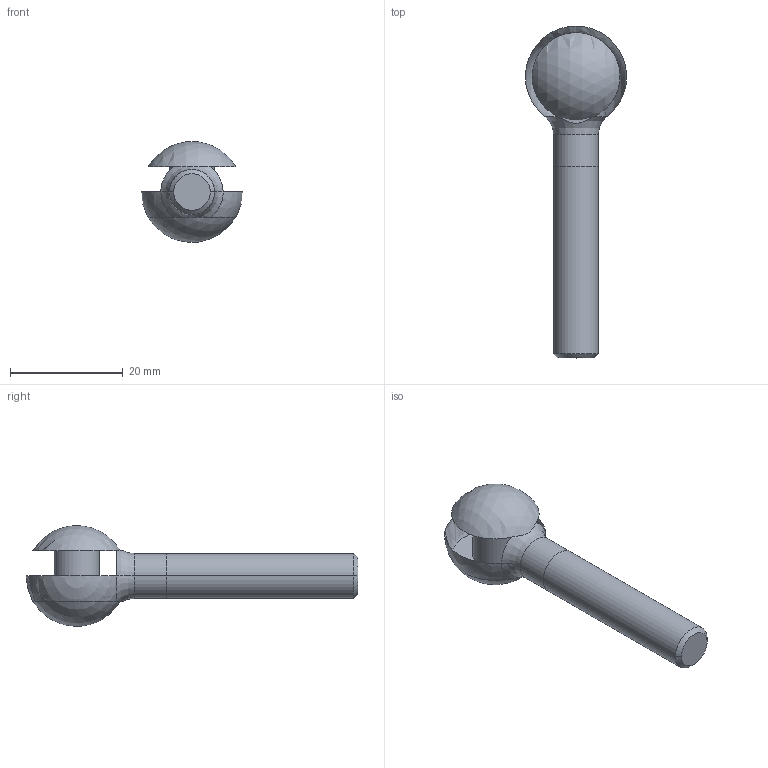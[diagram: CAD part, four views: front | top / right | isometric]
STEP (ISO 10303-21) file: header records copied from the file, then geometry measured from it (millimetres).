
FILE_DESCRIPTION((''),'2;1');
FILE_NAME('2600444186','2024-07-22T11:46:32',('markus.finger'),(''),'CREO PARAMETRIC BY PTC INC, 2022124','CREO PARAMETRIC BY PTC INC, 2022124','');
FILE_SCHEMA(('AUTOMOTIVE_DESIGN { 1 0 10303 214 1 1 1 1 }'));
Length unit declared in the file: millimetre
Products named in the file (1): 2600444186
Bounding box: 18 x 59 x 17.86 mm (x, y, z)
Volume: 687.7 mm3; surface area: 3364.2 mm2
Topology: 1 solids, 2 shells, 16 faces, 41 edges, 24 vertices
Faces by surface type: cylinder 6, plane 4, sphere 2, bspline 2, cone 2
Entity records: 1471 total; most frequent: CARTESIAN_POINT 371, COLOUR_RGB 143, DIRECTION 110, ORIENTED_EDGE 70, PROPERTY_DEFINITION 61, REPRESENTATION 59, PROPERTY_DEFINITION_REPRESENTATION 59, DESCRIPTIVE_REPRESENTATION_ITEM 50
